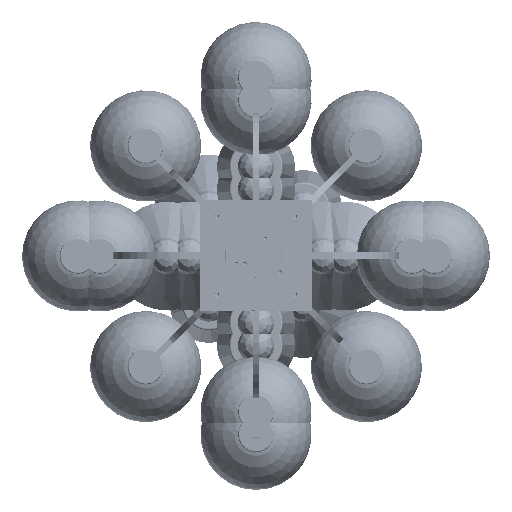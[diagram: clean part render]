
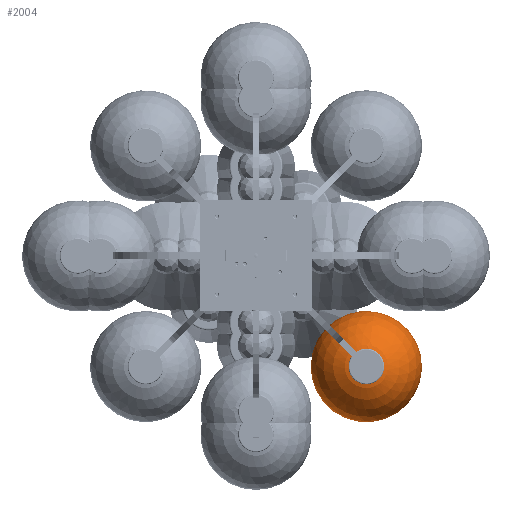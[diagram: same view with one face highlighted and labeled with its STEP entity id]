
A CAD part, top view. The second image highlights one B-rep face of the part: STEP entity #2004.
In plain terms, the highlighted spherical face has radius 100 mm.
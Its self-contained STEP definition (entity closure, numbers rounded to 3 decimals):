
#2004 = ADVANCED_FACE( '', ( #3446, #3447 ), #3448, .T. );
#3446 = FACE_OUTER_BOUND( '', #7354, .T. );
#3447 = FACE_OUTER_BOUND( '', #7355, .T. );
#3448 = SPHERICAL_SURFACE( '', #7356, 100. );
#7354 = EDGE_LOOP( '', ( #11990 ) );
#7355 = EDGE_LOOP( '', ( #11991 ) );
#7356 = AXIS2_PLACEMENT_3D( '', #11992, #11993, #11994 );
#11990 = ORIENTED_EDGE( '', *, *, #15831, .F. );
#11991 = ORIENTED_EDGE( '', *, *, #15832, .F. );
#11992 = CARTESIAN_POINT( '', ( 0., 0., -87. ) );
#11993 = DIRECTION( '', ( 0., 0., -1. ) );
#11994 = DIRECTION( '', ( -1., 0., 0. ) );
#15831 = EDGE_CURVE( '', #18404, #18404, #18405, .F. );
#15832 = EDGE_CURVE( '', #18406, #18406, #18407, .T. );
#18404 = VERTEX_POINT( '', #24133 );
#18405 = CIRCLE( '', #24134, 15.5 );
#18406 = VERTEX_POINT( '', #24135 );
#18407 = CIRCLE( '', #24136, 86.603 );
#24133 = CARTESIAN_POINT( '', ( -15.5, 0., 11.791 ) );
#24134 = AXIS2_PLACEMENT_3D( '', #28303, #28304, #28305 );
#24135 = CARTESIAN_POINT( '', ( -86.603, 0., -137. ) );
#24136 = AXIS2_PLACEMENT_3D( '', #28306, #28307, #28308 );
#28303 = CARTESIAN_POINT( '', ( 0., 0., 11.791 ) );
#28304 = DIRECTION( '', ( 0., 0., -1. ) );
#28305 = DIRECTION( '', ( -1., 0., 0. ) );
#28306 = CARTESIAN_POINT( '', ( 0., 0., -137. ) );
#28307 = DIRECTION( '', ( 0., 0., -1. ) );
#28308 = DIRECTION( '', ( -1., 0., 0. ) );
